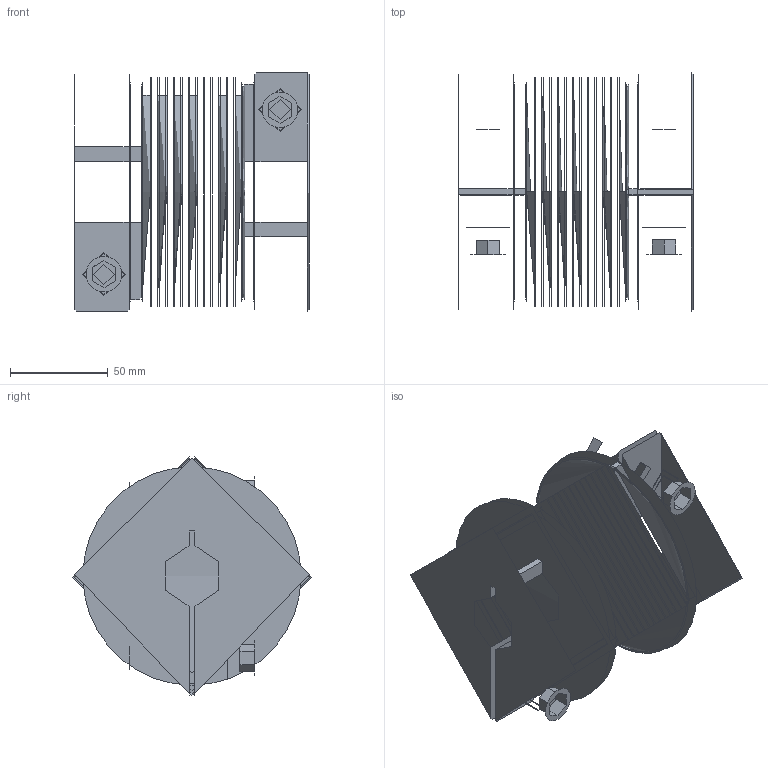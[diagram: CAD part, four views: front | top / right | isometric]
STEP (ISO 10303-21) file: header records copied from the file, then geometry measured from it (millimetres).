
FILE_DESCRIPTION( ( 'Unknown' ), '1' );
FILE_NAME( 'F:/JAKOB-STEP+IGES-Dateien/STEP-Dateien/KM/KM 600.stp', 'Unknown', ( 'Unknown' ), ( 'Unknown' ), 'PSStep 10.1', 'Unknown', ' ' );
FILE_SCHEMA( ( 'AUTOMOTIVE_DESIGN { 1 0 10303 214 1 1 1 1 }' ) );
Length unit declared in the file: millimetre
Products named in the file (1): 20703599
Bounding box: 120 x 121.99 x 121.98 mm (x, y, z)
Volume: 365168.7 mm3; surface area: 184029.2 mm2
Topology: 1 solids, 1 shells, 132 faces, 222 edges, 176 vertices
Faces by surface type: plane 68, torus 32, cylinder 24, cone 4, bspline 4
Full cylindrical faces by diameter (mm): 4.001 x2, 12 x2, 14 x2, 15 x2, 21 x2, 22 x2, 31 x4, 110 x2, 122 x2
Entity records: 4988 total; most frequent: CARTESIAN_POINT 1241, DIRECTION 570, ORIENTED_EDGE 432, AXIS2_PLACEMENT_3D 239, EDGE_LOOP 226, EDGE_CURVE 216, VERTEX_POINT 178, FACE_OUTER_BOUND 174
